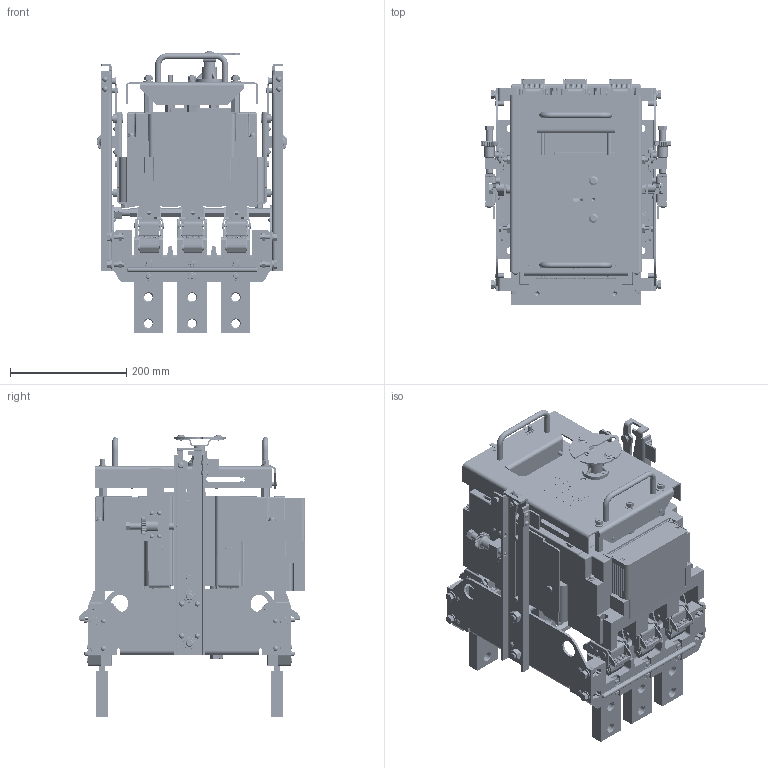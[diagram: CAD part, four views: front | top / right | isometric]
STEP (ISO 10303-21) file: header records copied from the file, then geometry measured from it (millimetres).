
FILE_DESCRIPTION (( 'STEP AP203' ), '1' );
FILE_NAME ('ÂÀ 55-41 ÂÈ ñ ÐÄÏ.STEP', '2016-09-28T12:33:45', ( 'admin' ), ( '' ), 'SwSTEP 2.0', 'SolidWorks 2012', '' );
FILE_SCHEMA (( 'CONFIG_CONTROL_DESIGN' ));
Products named in the file (1): ÂÀ 55-41 ÂÈ ñ ÐÄÏ
Bounding box: 327.99 x 389.91 x 486.2 mm (x, y, z)
Volume: 14567304.6 mm3; surface area: 2819662.2 mm2
Topology: 534 solids, 536 shells, 18204 faces, 45892 edges, 29266 vertices
Faces by surface type: plane 8519, cylinder 5868, bspline 1673, cone 1343, torus 571, sphere 230
Entity records: 819356 total; most frequent: CARTESIAN_POINT 387260, ORIENTED_EDGE 91564, DIRECTION 87034, EDGE_CURVE 45782, AXIS2_PLACEMENT_3D 30895, VERTEX_POINT 29266, LINE 25244, VECTOR 25244
